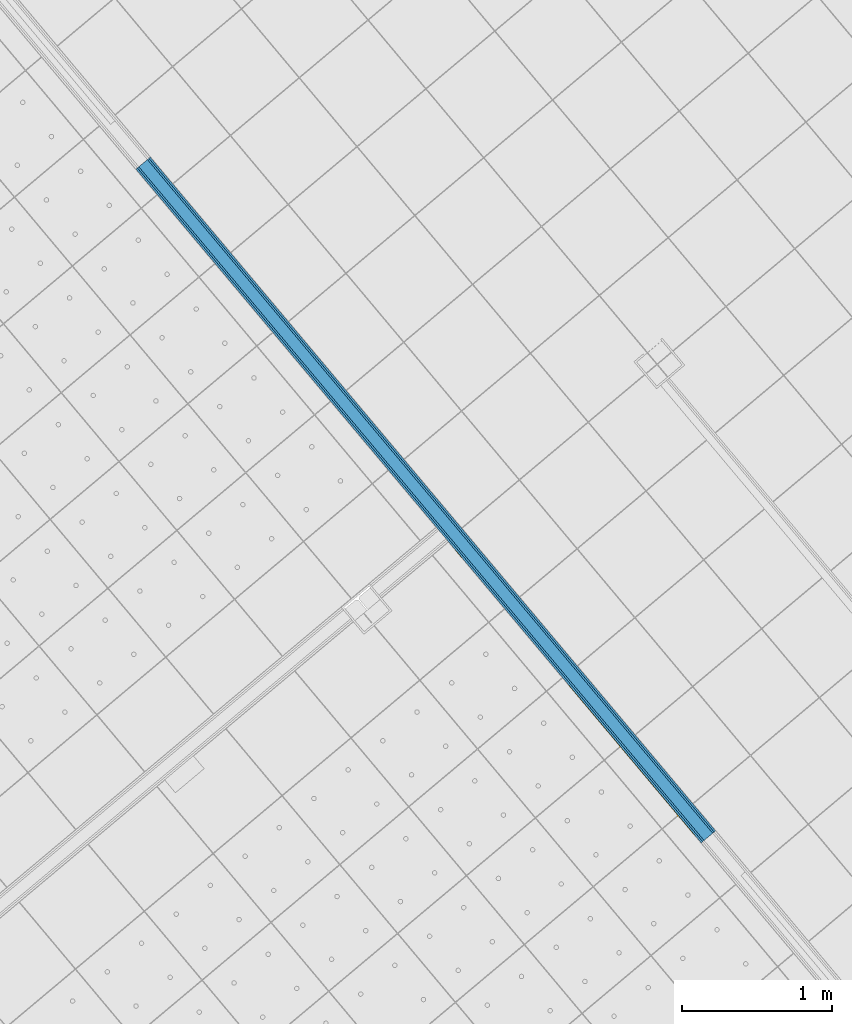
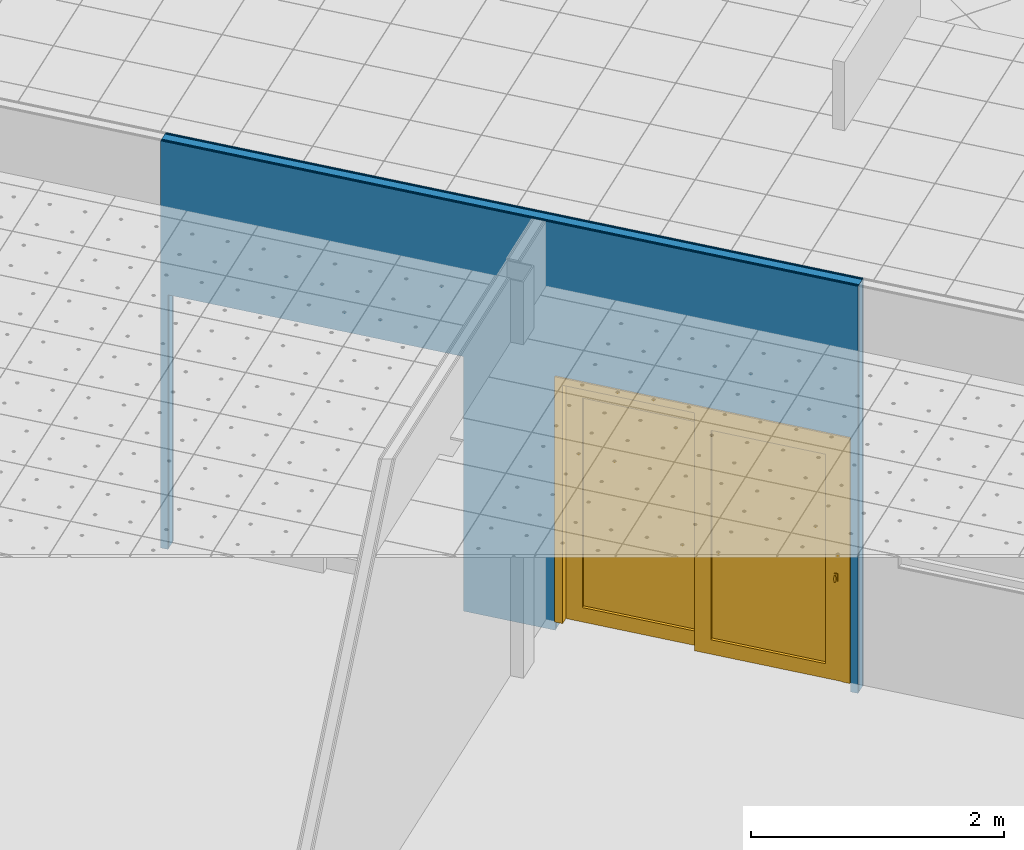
# One storey, part 41 of 321: 5 building element parts, 1 door, 2 openings, 1 element without a shape of its own.
"""IFC2X3 building model written with IfcOpenShell, lengths in millimetres."""

from ifc_helpers import new_model, entity, si_unit, converted_unit, derived_unit, money_unit, direction, frame, origin_with_axes, place, context, subcontext, project, spatial, open_shell, faceted_brep, surface_model, source, transform, mapped, material, type_object, type_shapes, element, fill, aggregate, save


model = new_model("IFC2X3")

# Units and contexts
model_context = context("Model", 3, precision=0.01, world=origin_with_axes(), true_north=direction((0.0, 1.0)))
plan_context = context("Plan", 3, precision=0.01, world=origin_with_axes(), true_north=direction((0.0, 1.0)))
body_context = subcontext(model_context, "Body", "Model", "MODEL_VIEW")
ifc_project = project(units=[si_unit("LENGTHUNIT", "METRE", prefix="MILLI"), si_unit("AREAUNIT", "SQUARE_METRE"), si_unit("VOLUMEUNIT", "CUBIC_METRE"), converted_unit("PLANEANGLEUNIT", "DEGREE", entity("IfcPlaneAngleMeasure", 0.0174532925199), si_unit("PLANEANGLEUNIT", "RADIAN"), dimensions=[0, 0, 0, 0, 0, 0, 0]), money_unit("EUR"), converted_unit("TIMEUNIT", "Year", entity("IfcTimeMeasure", 31556926.0), si_unit("TIMEUNIT", "SECOND"), dimensions=[0, 0, 1, 0, 0, 0, 0]), si_unit("MASSUNIT", "GRAM", prefix="KILO"), si_unit("THERMODYNAMICTEMPERATUREUNIT", "DEGREE_CELSIUS"), si_unit("LUMINOUSINTENSITYUNIT", "LUMEN"), si_unit("ENERGYUNIT", "JOULE", prefix="MEGA"), derived_unit("THERMALCONDUCTANCEUNIT", [(si_unit("POWERUNIT", "WATT"), 1), (si_unit("LENGTHUNIT", "METRE"), -1), (si_unit("THERMODYNAMICTEMPERATUREUNIT", "KELVIN"), -1)]), derived_unit("SPECIFICHEATCAPACITYUNIT", [(si_unit("ENERGYUNIT", "JOULE"), 1), (si_unit("MASSUNIT", "GRAM", prefix="KILO"), -1), (si_unit("THERMODYNAMICTEMPERATUREUNIT", "KELVIN"), -1)]), derived_unit("MASSDENSITYUNIT", [(si_unit("MASSUNIT", "GRAM", prefix="KILO"), 1), (si_unit("VOLUMEUNIT", "CUBIC_METRE"), -1)])], contexts=[model_context, plan_context])

# Site, building, storey
site_placement = place(None, origin_with_axes())
site = spatial("IfcSite", under=ifc_project, at=site_placement, Name="Fortuinstraat Woensdrecht", CompositionType="ELEMENT")
building_placement = place(site_placement, origin_with_axes())
building = spatial("IfcBuilding", under=site, at=building_placement, Name="IKC Fortuna", CompositionType="ELEMENT")
storey_placement = place(building_placement, frame((0.0, 0.0, 4000.0), z_axis=(0.0, 0.0, 1.0), x_axis=(1.0, 0.0, 0.0)))
storey = spatial("IfcBuildingStorey", under=building, at=storey_placement, Name="01 eerste verdieping", CompositionType="ELEMENT", Elevation=4000.0)

# Door
door_style = type_object("IfcDoorStyle", Name="DSn 25", ConstructionType="NOTDEFINED", OperationType="USERDEFINED", ParameterTakesPrecedence=False, Sizeable=False)
shared_shape = source(origin_with_axes(), body_context, "Body", "SurfaceModel", [
    faceted_brep([(1242.5, 0.0, 0.0), (1242.5, -139.0, 0.0), (1175.5, -139.0, 0.0), (1175.5, 0.0, 0.0), (1242.5, 0.0, 2300.0), (1242.5, -139.0, 2300.0), (1175.5, -139.0, 2300.0), (1175.5, 0.0, 2300.0)], [[[0, 1, 2, 3]], [[4, 5, 1, 0]], [[1, 5, 6, 2]], [[3, 2, 6, 7]], [[0, 3, 7, 4]], [[7, 6, 5, 4]]]),
    faceted_brep([(-1242.5, 0.0, 0.0), (-1242.5, -139.0, 0.0), (-1242.5, -139.0, 2300.0), (-1242.5, 0.0, 2300.0), (-1175.5, 0.0, 0.0), (-1175.5, -139.0, 0.0), (-1175.5, -139.0, 2300.0), (-1175.5, 0.0, 2300.0)], [[[0, 1, 2, 3]], [[4, 5, 1, 0]], [[1, 5, 6, 2]], [[3, 2, 6, 7]], [[0, 3, 7, 4]], [[7, 6, 5, 4]]]),
    faceted_brep([(1242.5, 0.0, 2367.0), (1242.5, -139.0, 2367.0), (1242.5, -139.0, 2300.0), (1242.5, 0.0, 2300.0), (-1242.5, 0.0, 2367.0), (-1242.5, -139.0, 2367.0), (-1242.5, -139.0, 2300.0), (-1175.5, -139.0, 2300.0), (1175.5, -139.0, 2300.0), (1175.5, 0.0, 2300.0), (-1175.5, 0.0, 2300.0), (-1242.5, 0.0, 2300.0)], [[[0, 1, 2, 3]], [[4, 5, 1, 0]], [[1, 5, 6, 7, 8, 2]], [[3, 2, 8, 9]], [[0, 3, 9, 10, 11, 4]], [[11, 6, 5, 4]], [[10, 7, 6, 11]], [[9, 8, 7, 10]]]),
    faceted_brep([(-1175.5, 0.0, 139.0), (-1036.5, 0.0, 139.0), (-1036.5, -64.5, 139.0), (-1175.5, -64.5, 139.0), (-1175.5, 0.0, 2161.0), (-1036.5, 0.0, 2161.0), (-1036.5, -64.5, 2161.0), (-1175.5, -64.5, 2161.0)], [[[0, 1, 2, 3]], [[0, 4, 5, 1]], [[1, 5, 6, 2]], [[3, 2, 6, 7]], [[4, 0, 3, 7]], [[5, 4, 7, 6]]]),
    faceted_brep([(69.5, 0.0, 139.0), (69.5, 0.0, 2161.0), (69.5, -64.5, 2161.0), (69.5, -64.5, 139.0), (-69.5, 0.0, 139.0), (-69.5, 0.0, 2161.0), (-69.5, -64.5, 2161.0), (-69.5, -64.5, 139.0)], [[[0, 1, 2, 3]], [[0, 4, 5, 1]], [[1, 5, 6, 2]], [[3, 2, 6, 7]], [[4, 0, 3, 7]], [[5, 4, 7, 6]]]),
    faceted_brep([(-1175.5, 0.0, 0.0), (69.5, 0.0, 0.0), (69.5, -64.5, 0.0), (-1175.5, -64.5, 0.0), (-1175.5, 0.0, 139.0), (-1036.5, 0.0, 139.0), (-69.5, 0.0, 139.0), (69.5, 0.0, 139.0), (69.5, -64.5, 139.0), (-69.5, -64.5, 139.0), (-1036.5, -64.5, 139.0), (-1175.5, -64.5, 139.0)], [[[0, 1, 2, 3]], [[0, 4, 5, 6, 7, 1]], [[1, 7, 8, 2]], [[3, 2, 8, 9, 10, 11]], [[4, 0, 3, 11]], [[5, 4, 11, 10]], [[6, 5, 10, 9]], [[7, 6, 9, 8]]]),
    faceted_brep([(-1175.5, 0.0, 2300.0), (-1175.5, 0.0, 2161.0), (-1175.5, -64.5, 2161.0), (-1175.5, -64.5, 2300.0), (69.5, 0.0, 2300.0), (69.5, 0.0, 2161.0), (-69.5, 0.0, 2161.0), (-1036.5, 0.0, 2161.0), (-1036.5, -64.5, 2161.0), (-69.5, -64.5, 2161.0), (69.5, -64.5, 2161.0), (69.5, -64.5, 2300.0)], [[[0, 1, 2, 3]], [[0, 4, 5, 6, 7, 1]], [[1, 7, 8, 2]], [[3, 2, 8, 9, 10, 11]], [[4, 0, 3, 11]], [[5, 4, 11, 10]], [[6, 5, 10, 9]], [[7, 6, 9, 8]]]),
    surface_model("IfcShellBasedSurfaceModel", [(-1036.5, -26.25, 139.0), (-1036.5, -26.25, 2161.0), (-69.5, -26.25, 2161.0), (-69.5, -26.25, 139.0)], [open_shell([[[0, 1, 2, 3]]])]),
    surface_model("IfcShellBasedSurfaceModel", [(-1036.5, -38.25, 139.0), (-69.5, -38.25, 139.0), (-69.5, -38.25, 2161.0), (-1036.5, -38.25, 2161.0)], [open_shell([[[0, 1, 2, 3]]])]),
    faceted_brep([(1110.5, -134.0, 965.0), (1110.5, -144.0, 965.0), (1110.5, -144.0, 1035.0), (1110.5, -134.0, 1035.0), (1140.5, -134.0, 965.0), (1140.5, -144.0, 965.0), (1140.5, -144.0, 1035.0), (1140.5, -134.0, 1035.0)], [[[0, 1, 2, 3]], [[4, 5, 1, 0]], [[1, 5, 6, 2]], [[3, 2, 6, 7]], [[0, 3, 7, 4]], [[7, 6, 5, 4]]]),
    faceted_brep([(1124.13436775, -144.0, 1006.86549696), (1125.5, -144.0, 1007.0), (1126.86563225, -144.0, 1006.86549696), (1128.17878403, -144.0, 1006.46715673), (1129.38899163, -144.0, 1005.82028729), (1130.44974747, -144.0, 1004.94974747), (1131.32028729, -144.0, 1003.88899163), (1131.96715673, -144.0, 1002.67878403), (1132.36549696, -144.0, 1001.36563225), (1132.5, -144.0, 1000.0), (1132.36549696, -144.0, 998.634367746), (1131.96715673, -144.0, 997.321215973), (1131.32028729, -144.0, 996.111008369), (1130.44974747, -144.0, 995.050252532), (1129.38899163, -144.0, 994.179712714), (1128.17878403, -144.0, 993.532843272), (1126.86563225, -144.0, 993.134503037), (1125.5, -144.0, 993.0), (1124.13436775, -144.0, 993.134503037), (1122.82121597, -144.0, 993.532843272), (1121.61100837, -144.0, 994.179712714), (1120.55025253, -144.0, 995.050252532), (1119.67971271, -144.0, 996.111008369), (1119.03284327, -144.0, 997.321215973), (1118.63450304, -144.0, 998.634367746), (1118.5, -144.0, 1000.0), (1118.63450304, -144.0, 1001.36563225), (1119.03284327, -144.0, 1002.67878403), (1119.67971271, -144.0, 1003.88899163), (1120.55025253, -144.0, 1004.94974747), (1121.61100837, -144.0, 1005.82028729), (1122.82121597, -144.0, 1006.46715673), (1124.13436775, -159.0, 1006.86549696), (1125.5, -159.0, 1007.0), (1126.86563225, -159.0, 1006.86549696), (1128.17878403, -159.0, 1006.46715673), (1129.38899163, -159.0, 1005.82028729), (1130.44974747, -159.0, 1004.94974747), (1131.32028729, -159.0, 1003.88899163), (1131.96715673, -159.0, 1002.67878403), (1132.36549696, -159.0, 1001.36563225), (1132.5, -159.0, 1000.0), (1132.36549696, -159.0, 998.634367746), (1131.96715673, -159.0, 997.321215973), (1131.32028729, -159.0, 996.111008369), (1130.44974747, -159.0, 995.050252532), (1129.38899163, -159.0, 994.179712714), (1128.17878403, -159.0, 993.532843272), (1126.86563225, -159.0, 993.134503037), (1125.5, -159.0, 993.0), (1124.13436775, -159.0, 993.134503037), (1122.82121597, -159.0, 993.532843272), (1121.61100837, -159.0, 994.179712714), (1120.55025253, -159.0, 995.050252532), (1119.67971271, -159.0, 996.111008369), (1119.03284327, -159.0, 997.321215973), (1118.63450304, -159.0, 998.634367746), (1118.5, -159.0, 1000.0), (1118.63450304, -159.0, 1001.36563225), (1119.03284327, -159.0, 1002.67878403), (1119.67971271, -159.0, 1003.88899163), (1120.55025253, -159.0, 1004.94974747), (1121.61100837, -159.0, 1005.82028729), (1122.82121597, -159.0, 1006.46715673)], [[[0, 1, 2, 3, 4, 5, 6, 7, 8, 9, 10, 11, 12, 13, 14, 15, 16, 17, 18, 19, 20, 21, 22, 23, 24, 25, 26, 27, 28, 29, 30, 31]], [[0, 32, 33, 1]], [[1, 33, 34, 2]], [[2, 34, 35, 3]], [[3, 35, 36, 4]], [[4, 36, 37, 5]], [[5, 37, 38, 6]], [[6, 38, 39, 7]], [[7, 39, 40, 8]], [[8, 40, 41, 9]], [[9, 41, 42, 10]], [[10, 42, 43, 11]], [[11, 43, 44, 12]], [[12, 44, 45, 13]], [[13, 45, 46, 14]], [[14, 46, 47, 15]], [[15, 47, 48, 16]], [[16, 48, 49, 17]], [[17, 49, 50, 18]], [[18, 50, 51, 19]], [[19, 51, 52, 20]], [[20, 52, 53, 21]], [[21, 53, 54, 22]], [[22, 54, 55, 23]], [[23, 55, 56, 24]], [[24, 56, 57, 25]], [[25, 57, 58, 26]], [[26, 58, 59, 27]], [[27, 59, 60, 28]], [[28, 60, 61, 29]], [[29, 61, 62, 30]], [[30, 62, 63, 31]], [[31, 63, 32, 0]], [[32, 63, 62, 61, 60, 59, 58, 57, 56, 55, 54, 53, 52, 51, 50, 49, 48, 47, 46, 45, 44, 43, 42, 41, 40, 39, 38, 37, 36, 35, 34, 33]]]),
    faceted_brep([(1115.5, -159.0, 990.0), (1115.5, -169.0, 990.0), (1115.5, -169.0, 1010.0), (1115.5, -159.0, 1010.0), (1135.5, -159.0, 990.0), (1135.5, -169.0, 990.0), (1135.5, -169.0, 1010.0), (1135.5, -159.0, 1010.0)], [[[0, 1, 2, 3]], [[4, 5, 1, 0]], [[1, 5, 6, 2]], [[3, 2, 6, 7]], [[0, 3, 7, 4]], [[7, 6, 5, 4]]]),
    faceted_brep([(1115.5, -169.0, 990.0), (1120.5, -167.0, 965.0), (1130.5, -167.0, 965.0), (1135.5, -169.0, 990.0), (1115.5, -159.0, 990.0), (1120.5, -163.0, 965.0), (1130.5, -163.0, 965.0), (1135.5, -159.0, 990.0)], [[[0, 1, 2, 3]], [[4, 5, 1, 0]], [[1, 5, 6, 2]], [[3, 2, 6, 7]], [[0, 3, 7, 4]], [[7, 6, 5, 4]]]),
    faceted_brep([(1115.5, -169.0, 1010.0), (1135.5, -169.0, 1010.0), (1130.5, -167.0, 1035.0), (1120.5, -167.0, 1035.0), (1115.5, -159.0, 1010.0), (1135.5, -159.0, 1010.0), (1130.5, -163.0, 1035.0), (1120.5, -163.0, 1035.0)], [[[0, 1, 2, 3]], [[0, 4, 5, 1]], [[1, 5, 6, 2]], [[3, 2, 6, 7]], [[4, 0, 3, 7]], [[5, 4, 7, 6]]]),
    faceted_brep([(1110.5, -69.5, 965.0), (1110.5, -69.5, 1035.0), (1110.5, -59.5, 1035.0), (1110.5, -59.5, 965.0), (1140.5, -69.5, 965.0), (1140.5, -69.5, 1035.0), (1140.5, -59.5, 1035.0), (1140.5, -59.5, 965.0)], [[[0, 1, 2, 3]], [[0, 4, 5, 1]], [[1, 5, 6, 2]], [[3, 2, 6, 7]], [[4, 0, 3, 7]], [[5, 4, 7, 6]]]),
    faceted_brep([(1124.13436775, -59.5, 1006.86549696), (1122.82121597, -59.5, 1006.46715673), (1121.61100837, -59.5, 1005.82028729), (1120.55025253, -59.5, 1004.94974747), (1119.67971271, -59.5, 1003.88899163), (1119.03284327, -59.5, 1002.67878403), (1118.63450304, -59.5, 1001.36563225), (1118.5, -59.5, 1000.0), (1118.63450304, -59.5, 998.634367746), (1119.03284327, -59.5, 997.321215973), (1119.67971271, -59.5, 996.111008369), (1120.55025253, -59.5, 995.050252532), (1121.61100837, -59.5, 994.179712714), (1122.82121597, -59.5, 993.532843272), (1124.13436775, -59.5, 993.134503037), (1125.5, -59.5, 993.0), (1126.86563225, -59.5, 993.134503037), (1128.17878403, -59.5, 993.532843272), (1129.38899163, -59.5, 994.179712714), (1130.44974747, -59.5, 995.050252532), (1131.32028729, -59.5, 996.111008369), (1131.96715673, -59.5, 997.321215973), (1132.36549696, -59.5, 998.634367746), (1132.5, -59.5, 1000.0), (1132.36549696, -59.5, 1001.36563225), (1131.96715673, -59.5, 1002.67878403), (1131.32028729, -59.5, 1003.88899163), (1130.44974747, -59.5, 1004.94974747), (1129.38899163, -59.5, 1005.82028729), (1128.17878403, -59.5, 1006.46715673), (1126.86563225, -59.5, 1006.86549696), (1125.5, -59.5, 1007.0), (1124.13436775, -44.5, 1006.86549696), (1122.82121597, -44.5, 1006.46715673), (1121.61100837, -44.5, 1005.82028729), (1120.55025253, -44.5, 1004.94974747), (1119.67971271, -44.5, 1003.88899163), (1119.03284327, -44.5, 1002.67878403), (1118.63450304, -44.5, 1001.36563225), (1118.5, -44.5, 1000.0), (1118.63450304, -44.5, 998.634367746), (1119.03284327, -44.5, 997.321215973), (1119.67971271, -44.5, 996.111008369), (1120.55025253, -44.5, 995.050252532), (1121.61100837, -44.5, 994.179712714), (1122.82121597, -44.5, 993.532843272), (1124.13436775, -44.5, 993.134503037), (1125.5, -44.5, 993.0), (1126.86563225, -44.5, 993.134503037), (1128.17878403, -44.5, 993.532843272), (1129.38899163, -44.5, 994.179712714), (1130.44974747, -44.5, 995.050252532), (1131.32028729, -44.5, 996.111008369), (1131.96715673, -44.5, 997.321215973), (1132.36549696, -44.5, 998.634367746), (1132.5, -44.5, 1000.0), (1132.36549696, -44.5, 1001.36563225), (1131.96715673, -44.5, 1002.67878403), (1131.32028729, -44.5, 1003.88899163), (1130.44974747, -44.5, 1004.94974747), (1129.38899163, -44.5, 1005.82028729), (1128.17878403, -44.5, 1006.46715673), (1126.86563225, -44.5, 1006.86549696), (1125.5, -44.5, 1007.0)], [[[0, 1, 2, 3, 4, 5, 6, 7, 8, 9, 10, 11, 12, 13, 14, 15, 16, 17, 18, 19, 20, 21, 22, 23, 24, 25, 26, 27, 28, 29, 30, 31]], [[1, 0, 32, 33]], [[2, 1, 33, 34]], [[3, 2, 34, 35]], [[4, 3, 35, 36]], [[5, 4, 36, 37]], [[6, 5, 37, 38]], [[7, 6, 38, 39]], [[8, 7, 39, 40]], [[9, 8, 40, 41]], [[10, 9, 41, 42]], [[11, 10, 42, 43]], [[12, 11, 43, 44]], [[13, 12, 44, 45]], [[14, 13, 45, 46]], [[15, 14, 46, 47]], [[16, 15, 47, 48]], [[17, 16, 48, 49]], [[18, 17, 49, 50]], [[19, 18, 50, 51]], [[20, 19, 51, 52]], [[21, 20, 52, 53]], [[22, 21, 53, 54]], [[23, 22, 54, 55]], [[24, 23, 55, 56]], [[25, 24, 56, 57]], [[26, 25, 57, 58]], [[27, 26, 58, 59]], [[28, 27, 59, 60]], [[29, 28, 60, 61]], [[30, 29, 61, 62]], [[31, 30, 62, 63]], [[0, 31, 63, 32]], [[32, 63, 62, 61, 60, 59, 58, 57, 56, 55, 54, 53, 52, 51, 50, 49, 48, 47, 46, 45, 44, 43, 42, 41, 40, 39, 38, 37, 36, 35, 34, 33]]]),
    faceted_brep([(1115.5, -44.5, 990.0), (1115.5, -44.5, 1010.0), (1115.5, -34.5, 1010.0), (1115.5, -34.5, 990.0), (1135.5, -44.5, 990.0), (1135.5, -44.5, 1010.0), (1135.5, -34.5, 1010.0), (1135.5, -34.5, 990.0)], [[[0, 1, 2, 3]], [[0, 4, 5, 1]], [[1, 5, 6, 2]], [[3, 2, 6, 7]], [[4, 0, 3, 7]], [[5, 4, 7, 6]]]),
    faceted_brep([(1115.5, -34.5, 990.0), (1135.5, -34.5, 990.0), (1130.5, -36.5, 965.0), (1120.5, -36.5, 965.0), (1115.5, -44.5, 990.0), (1135.5, -44.5, 990.0), (1130.5, -40.5, 965.0), (1120.5, -40.5, 965.0)], [[[0, 1, 2, 3]], [[0, 4, 5, 1]], [[1, 5, 6, 2]], [[3, 2, 6, 7]], [[4, 0, 3, 7]], [[5, 4, 7, 6]]]),
    faceted_brep([(1115.5, -34.5, 1010.0), (1120.5, -36.5, 1035.0), (1130.5, -36.5, 1035.0), (1135.5, -34.5, 1010.0), (1115.5, -44.5, 1010.0), (1120.5, -40.5, 1035.0), (1130.5, -40.5, 1035.0), (1135.5, -44.5, 1010.0)], [[[0, 1, 2, 3]], [[4, 5, 1, 0]], [[1, 5, 6, 2]], [[3, 2, 6, 7]], [[0, 3, 7, 4]], [[7, 6, 5, 4]]]),
    faceted_brep([(-69.5, -69.5, 139.0), (69.5, -69.5, 139.0), (69.5, -134.0, 139.0), (-69.5, -134.0, 139.0), (-69.5, -69.5, 2161.0), (69.5, -69.5, 2161.0), (69.5, -134.0, 2161.0), (-69.5, -134.0, 2161.0)], [[[0, 1, 2, 3]], [[0, 4, 5, 1]], [[1, 5, 6, 2]], [[3, 2, 6, 7]], [[4, 0, 3, 7]], [[5, 4, 7, 6]]]),
    faceted_brep([(1175.5, -69.5, 139.0), (1175.5, -69.5, 2161.0), (1175.5, -134.0, 2161.0), (1175.5, -134.0, 139.0), (1036.5, -69.5, 139.0), (1036.5, -69.5, 2161.0), (1036.5, -134.0, 2161.0), (1036.5, -134.0, 139.0)], [[[0, 1, 2, 3]], [[0, 4, 5, 1]], [[1, 5, 6, 2]], [[3, 2, 6, 7]], [[4, 0, 3, 7]], [[5, 4, 7, 6]]]),
    faceted_brep([(-69.5, -69.5, 0.0), (1175.5, -69.5, 0.0), (1175.5, -134.0, 0.0), (-69.5, -134.0, 0.0), (-69.5, -69.5, 139.0), (69.5, -69.5, 139.0), (1036.5, -69.5, 139.0), (1175.5, -69.5, 139.0), (1175.5, -134.0, 139.0), (1036.5, -134.0, 139.0), (69.5, -134.0, 139.0), (-69.5, -134.0, 139.0)], [[[0, 1, 2, 3]], [[0, 4, 5, 6, 7, 1]], [[1, 7, 8, 2]], [[3, 2, 8, 9, 10, 11]], [[4, 0, 3, 11]], [[5, 4, 11, 10]], [[6, 5, 10, 9]], [[7, 6, 9, 8]]]),
    faceted_brep([(-69.5, -69.5, 2300.0), (-69.5, -69.5, 2161.0), (-69.5, -134.0, 2161.0), (-69.5, -134.0, 2300.0), (1175.5, -69.5, 2300.0), (1175.5, -69.5, 2161.0), (1036.5, -69.5, 2161.0), (69.5, -69.5, 2161.0), (69.5, -134.0, 2161.0), (1036.5, -134.0, 2161.0), (1175.5, -134.0, 2161.0), (1175.5, -134.0, 2300.0)], [[[0, 1, 2, 3]], [[0, 4, 5, 6, 7, 1]], [[1, 7, 8, 2]], [[3, 2, 8, 9, 10, 11]], [[4, 0, 3, 11]], [[5, 4, 11, 10]], [[6, 5, 10, 9]], [[7, 6, 9, 8]]]),
    surface_model("IfcShellBasedSurfaceModel", [(69.5, -95.75, 139.0), (69.5, -95.75, 2161.0), (1036.5, -95.75, 2161.0), (1036.5, -95.75, 139.0)], [open_shell([[[0, 1, 2, 3]]])]),
    surface_model("IfcShellBasedSurfaceModel", [(69.5, -107.75, 139.0), (1036.5, -107.75, 139.0), (1036.5, -107.75, 2161.0), (69.5, -107.75, 2161.0)], [open_shell([[[0, 1, 2, 3]]])]),
])
type_shapes(door_style, [shared_shape])
wall_placement = place(storey_placement, frame((12856.7077015, 5400.95257994, 1360.0), z_axis=(0.0, 0.0, 1.0), x_axis=(0.642787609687, -0.766044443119, 0.0)))
opening_1_placement = place(wall_placement, frame((4563.72242865, 0.0, 90.0), z_axis=(0.0, 0.0, 1.0), x_axis=(1.0, 0.0, 0.0)))
door_placement = place(opening_1_placement, frame((-1242.5, 0.0, 0.0), z_axis=(0.0, 0.0, 1.0), x_axis=(1.0, 0.0, 0.0)))
door = element("IfcDoor", 1, at=door_placement, inside=storey, type_object=door_style, Name="32_Deur_h.03", ObjectType="DOOR", OverallHeight=2367.0, OverallWidth=2485.0, context=body_context, shape_type="MappedRepresentation", body=[
    mapped(shared_shape, transform((1242.5, 62.5, 0.0))),
])

# Wall, opening
wall_type = type_object("IfcWallType", Name="MS125 2.75.2A 125", PredefinedType="NOTDEFINED")
wall = element("IfcWall", 2, at=wall_placement, inside=storey, type_object=wall_type, Name="22_Wand_Binnenwand")
opening_1 = element("IfcOpeningElement", 3, at=opening_1_placement, cuts=wall, Name="32_Deur_h.03", context=body_context, shape_type="Brep", body=[
    faceted_brep([(-1242.5, 250.0, 2367.0), (-1242.5, 250.0, -90.0), (-1242.5, -125.0, -90.0), (-1242.5, -125.0, 2367.0), (1242.5, 250.0, 2367.0), (1242.5, 250.0, -90.0), (1242.5, -125.0, -90.0), (1242.5, -125.0, 2367.0)], [[[0, 1, 2, 3]], [[0, 4, 5, 1]], [[1, 5, 6, 2]], [[3, 2, 6, 7]], [[4, 0, 3, 7]], [[5, 4, 7, 6]]]),
])

fill(opening_1, door)

# Opening
opening_2_placement = place(wall_placement, frame((1305.0, 0.0, 90.0), z_axis=(0.0, 0.0, 1.0), x_axis=(1.0, 0.0, 0.0)))
element("IfcOpeningElement", 4, at=opening_2_placement, cuts=wall, Name="32_Deur_h.03", context=body_context, shape_type="Brep", body=[
    faceted_brep([(1242.5, -125.0, 2367.0), (1242.5, -125.0, -90.0), (1242.5, 250.0, -90.0), (1242.5, 250.0, 2367.0), (-1242.5, -125.0, 2367.0), (-1242.5, -125.0, -90.0), (-1242.5, 250.0, -90.0), (-1242.5, 250.0, 2367.0)], [[[0, 1, 2, 3]], [[0, 4, 5, 1]], [[1, 5, 6, 2]], [[3, 2, 6, 7]], [[4, 0, 3, 7]], [[5, 4, 7, 6]]]),
])

# Building element part
ifc_material_1 = material(Name="Gipsplaat")
building_element_part_1_placement = place(wall_placement, origin_with_axes())
building_element_part_1 = element("IfcBuildingElementPart", 5, at=building_element_part_1_placement, material=ifc_material_1, Name="Gipsplaat", context=body_context, shape_type="Brep", body=[
    faceted_brep([(62.5, 62.5000107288, 2457.0), (62.5, 62.5000001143, 0.0), (0.0, 62.5, 0.0), (0.0, 62.5, 3930.0), (5868.7016263, 62.5000107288, 3930.0), (5868.7016263, 62.5000107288, 0.0), (5806.22242865, 62.5000106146, 0.0), (5806.22242865, 62.5000107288, 2457.0), (3321.22242865, 62.5000107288, 2457.0), (3321.22242865, 62.5000060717, 0.0), (2547.5, 62.5000046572, 0.0), (2547.5, 62.5000107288, 2457.0), (62.5, 50.0, 2457.0), (62.5, 50.0, 0.0), (0.0, 50.0, 0.0), (0.0, 50.0, 3930.0), (5868.70578677, 50.0, 3930.0), (5868.70578677, 50.0, 0.0), (5806.22242865, 50.0, 0.0), (5806.22242865, 50.0, 2457.0), (3321.22242865, 50.0, 2457.0), (3321.22242865, 50.0, 0.0), (2547.5, 50.0, 0.0), (2547.5, 50.0, 2457.0)], [[[0, 1, 2, 3, 4, 5, 6, 7, 8, 9, 10, 11]], [[1, 0, 12, 13]], [[1, 13, 14, 2]], [[14, 15, 3, 2]], [[3, 15, 16, 4]], [[16, 17, 5, 4]], [[6, 5, 17, 18]], [[6, 18, 19, 7]], [[7, 19, 20, 8]], [[8, 20, 21, 9]], [[22, 10, 9, 21]], [[11, 10, 22, 23]], [[0, 11, 23, 12]], [[23, 22, 21, 20, 19, 18, 17, 16, 15, 14, 13, 12]]]),
])

building_element_part_2_placement = place(wall_placement, origin_with_axes())
building_element_part_2 = element("IfcBuildingElementPart", 6, at=building_element_part_2_placement, material=ifc_material_1, Name="Gipsplaat", context=body_context, shape_type="Brep", body=[
    faceted_brep([(62.5, 50.0, 2457.0), (62.5, 50.0, 0.0), (0.0, 50.0, 0.0), (0.0, 50.0, 3930.0), (5868.70578677, 50.0, 3930.0), (5868.70578677, 50.0, 0.0), (5806.22242865, 50.0, 0.0), (5806.22242865, 50.0, 2457.0), (3321.22242865, 50.0, 2457.0), (3321.22242865, 50.0, 0.0), (2547.5, 50.0, 0.0), (2547.5, 50.0, 2457.0), (62.5, 37.4999968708, 2457.0), (62.5, 37.4999999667, 0.0), (0.0, 37.5, 0.0), (0.0, 37.5, 3930.0), (5868.70994725, 37.4999968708, 3930.0), (5868.70994725, 37.4999968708, 0.0), (5806.22242865, 37.4999969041, 0.0), (5806.22242865, 37.4999968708, 2457.0), (3321.22242865, 37.4999968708, 2457.0), (3321.22242865, 37.4999982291, 0.0), (2547.5, 37.4999986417, 0.0), (2547.5, 37.4999968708, 2457.0)], [[[0, 1, 2, 3, 4, 5, 6, 7, 8, 9, 10, 11]], [[1, 0, 12, 13]], [[1, 13, 14, 2]], [[14, 15, 3, 2]], [[3, 15, 16, 4]], [[16, 17, 5, 4]], [[6, 5, 17, 18]], [[6, 18, 19, 7]], [[7, 19, 20, 8]], [[8, 20, 21, 9]], [[22, 10, 9, 21]], [[11, 10, 22, 23]], [[0, 11, 23, 12]], [[23, 22, 21, 20, 19, 18, 17, 16, 15, 14, 13, 12]]]),
])

ifc_material_2 = material(Name="Isolatie - Steenwol LSW")
building_element_part_3_placement = place(wall_placement, origin_with_axes())
building_element_part_3 = element("IfcBuildingElementPart", 7, at=building_element_part_3_placement, material=ifc_material_2, Name="Isolatie - Steenwol LSW", context=body_context, shape_type="Brep", body=[
    faceted_brep([(62.5, 37.4999968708, 2457.0), (62.5, 37.4999999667, 0.0), (0.0, 37.5, 0.0), (0.0, 37.5, 3930.0), (5868.70994725, 37.4999968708, 3930.0), (5868.70994725, 37.4999968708, 0.0), (5806.22242865, 37.4999969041, 0.0), (5806.22242865, 37.4999968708, 2457.0), (3321.22242865, 37.4999968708, 2457.0), (3321.22242865, 37.4999982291, 0.0), (2547.5, 37.4999986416, 0.0), (2547.5, 37.4999968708, 2457.0), (62.5, -37.4999861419, 2457.0), (62.5, -37.4999998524, 0.0), (0.0, -37.5, 0.0), (0.0, -37.5, 3930.0), (5868.73491006, -37.4999861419, 3930.0), (5868.73491006, -37.4999861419, 0.0), (5806.22242865, -37.4999862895, 0.0), (5806.22242865, -37.4999861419, 2457.0), (3321.22242865, -37.4999861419, 2457.0), (3321.22242865, -37.4999921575, 0.0), (2547.5, -37.4999939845, 0.0), (2547.5, -37.4999861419, 2457.0)], [[[0, 1, 2, 3, 4, 5, 6, 7, 8, 9, 10, 11]], [[1, 0, 12, 13]], [[1, 13, 14, 2]], [[14, 15, 3, 2]], [[3, 15, 16, 4]], [[16, 17, 5, 4]], [[6, 5, 17, 18]], [[6, 18, 19, 7]], [[7, 19, 20, 8]], [[8, 20, 21, 9]], [[22, 10, 9, 21]], [[11, 10, 22, 23]], [[0, 11, 23, 12]], [[23, 22, 21, 20, 19, 18, 17, 16, 15, 14, 13, 12]]]),
])

building_element_part_4_placement = place(wall_placement, origin_with_axes())
building_element_part_4 = element("IfcBuildingElementPart", 8, at=building_element_part_4_placement, material=ifc_material_1, Name="Gipsplaat", context=body_context, shape_type="Brep", body=[
    faceted_brep([(62.5, -37.4999861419, 2457.0), (62.5, -37.4999998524, 0.0), (0.0, -37.5, 0.0), (0.0, -37.5, 3930.0), (5868.73491006, -37.4999861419, 3930.0), (5868.73491006, -37.4999861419, 0.0), (5806.22242865, -37.4999862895, 0.0), (5806.22242865, -37.4999861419, 2457.0), (3321.22242865, -37.4999861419, 2457.0), (3321.22242865, -37.4999921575, 0.0), (2547.5, -37.4999939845, 0.0), (2547.5, -37.4999861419, 2457.0), (62.5, -50.0, 2457.0), (62.5, -50.0, 0.0), (0.0, -50.0, 0.0), (0.0, -50.0, 3930.0), (5868.73907053, -50.0, 3930.0), (5868.73907053, -50.0, 0.0), (5806.22242865, -50.0, 0.0), (5806.22242865, -50.0, 2457.0), (3321.22242865, -50.0, 2457.0), (3321.22242865, -50.0, 0.0), (2547.5, -50.0, 0.0), (2547.5, -50.0, 2457.0)], [[[0, 1, 2, 3, 4, 5, 6, 7, 8, 9, 10, 11]], [[1, 0, 12, 13]], [[1, 13, 14, 2]], [[3, 2, 14, 15]], [[3, 15, 16, 4]], [[16, 17, 5, 4]], [[6, 5, 17, 18]], [[6, 18, 19, 7]], [[7, 19, 20, 8]], [[8, 20, 21, 9]], [[22, 10, 9, 21]], [[11, 10, 22, 23]], [[0, 11, 23, 12]], [[23, 22, 21, 20, 19, 18, 17, 16, 15, 14, 13, 12]]]),
])

building_element_part_5_placement = place(wall_placement, origin_with_axes())
building_element_part_5 = element("IfcBuildingElementPart", 9, at=building_element_part_5_placement, material=ifc_material_1, Name="Gipsplaat", context=body_context, shape_type="Brep", body=[
    faceted_brep([(62.5, -50.0, 2457.0), (62.5, -50.0, 0.0), (0.0, -50.0, 0.0), (0.0, -50.0, 3930.0), (5868.73907053, -50.0, 3930.0), (5868.73907053, -50.0, 0.0), (5806.22242865, -50.0, 0.0), (5806.22242865, -50.0, 2457.0), (3321.22242865, -50.0, 2457.0), (3321.22242865, -50.0, 0.0), (2547.5, -50.0, 0.0), (2547.5, -50.0, 2457.0), (62.5, -62.5, 2457.0), (62.5, -62.5, 0.0), (0.0, -62.5, 0.0), (0.0, -62.5, 3930.0), (5868.743231, -62.5, 3930.0), (5868.743231, -62.5, 0.0), (5806.22242865, -62.5, 0.0), (5806.22242865, -62.5, 2457.0), (3321.22242865, -62.5, 2457.0), (3321.22242865, -62.5, 0.0), (2547.5, -62.5, 0.0), (2547.5, -62.5, 2457.0)], [[[0, 1, 2, 3, 4, 5, 6, 7, 8, 9, 10, 11]], [[1, 0, 12, 13]], [[1, 13, 14, 2]], [[3, 2, 14, 15]], [[3, 15, 16, 4]], [[16, 17, 5, 4]], [[6, 5, 17, 18]], [[6, 18, 19, 7]], [[7, 19, 20, 8]], [[8, 20, 21, 9]], [[22, 10, 9, 21]], [[11, 10, 22, 23]], [[0, 11, 23, 12]], [[23, 22, 21, 20, 19, 18, 17, 16, 15, 14, 13, 12]]]),
])

aggregate(wall, [building_element_part_1, building_element_part_2, building_element_part_3, building_element_part_4, building_element_part_5])

save(model, "model.ifc")
